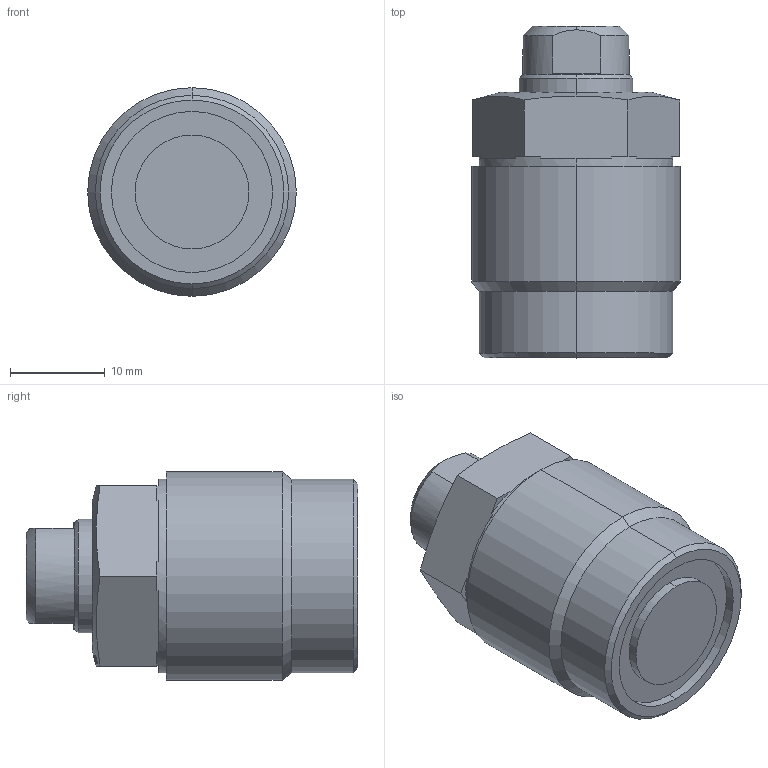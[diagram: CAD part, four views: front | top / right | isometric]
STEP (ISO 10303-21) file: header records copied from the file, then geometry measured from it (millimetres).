
FILE_DESCRIPTION (( 'STEP AP203' ), '1' );
FILE_NAME ('T03C-M221-S threaded pusher.STEP', '2022-07-09T17:36:19', ( '' ), ( '' ), 'SwSTEP 2.0', 'SolidWorks 2017', '' );
FILE_SCHEMA (( 'CONFIG_CONTROL_DESIGN' ));
Length unit declared in the file: millimetre
Products named in the file (3): T03C-M221-S part-2; T03C-M221-S threaded pusher; T03C-M221-S part-1
Assembly tree (2 placements, depth 2):
  T03C-M221-S threaded pusher
    T03C-M221-S part-1
    T03C-M221-S part-2
Bounding box: 22 x 35 x 22 mm (x, y, z)
Volume: 12873.4 mm3; surface area: 4241.2 mm2
Topology: 2 solids, 2 shells, 249 faces, 660 edges, 435 vertices
Faces by surface type: plane 130, bspline 89, cylinder 16, cone 14
Entity records: 12367 total; most frequent: CARTESIAN_POINT 6594, ORIENTED_EDGE 1316, DIRECTION 794, EDGE_CURVE 658, VERTEX_POINT 435, LINE 356, VECTOR 356, EDGE_LOOP 271
